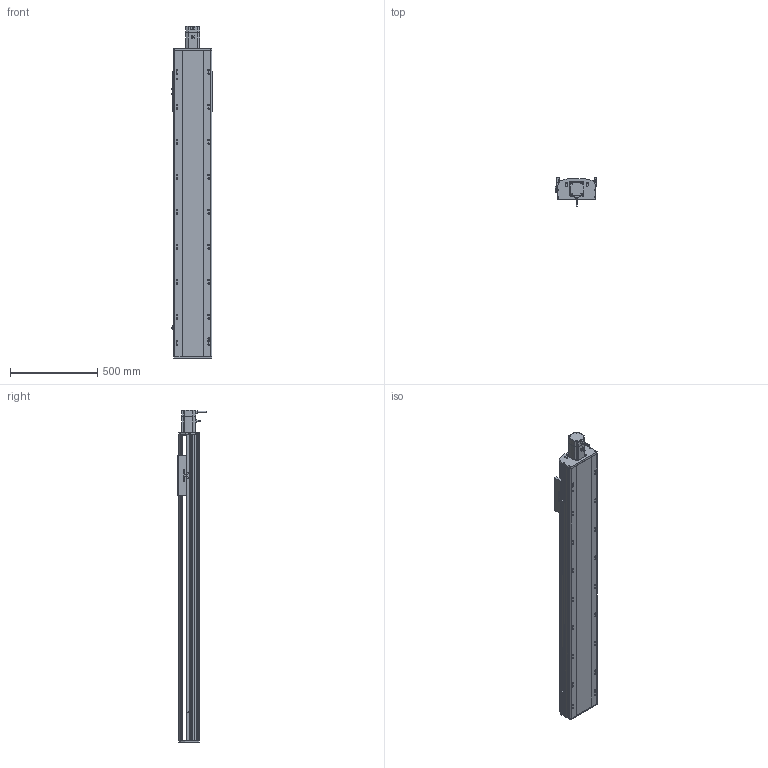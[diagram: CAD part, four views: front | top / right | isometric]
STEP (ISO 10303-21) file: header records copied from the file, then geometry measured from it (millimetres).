
FILE_DESCRIPTION (( 'STEP AP214' ), '1' );
FILE_NAME ('RTH22-XX-1350-E-M75-C4.STEP', '2025-10-24T10:49:23', ( 'Microsoft' ), ( 'Microsoft' ), 'SwSTEP 2.0', 'SolidWorks 2018', '' );
FILE_SCHEMA (( 'AUTOMOTIVE_DESIGN' ));
Length unit declared in the file: millimetre
Products named in the file (9): N_OMRON EE-SX672 传感器^RTH22-XX-XX-E-M75-C4; N_RTH22-GY-001耜裔^RTH22-XX-XX-E-M75-C4; RTH22-XX-1350-E-M75-C4; N_RTH22-E-004-SFS25賑釱^RTH22-XX-XX-E-M75-C4; N_RTH22-E-007奻裔^RTH22-XX-XX-E-M75-C4; N_RTH22-E-008萇儂啣^RTH22-XX-XX-E-M75-C4; N_RTH22-E-011菁釱^RTH22-XX-XX-E-M75-C4; N_750W萇儂^RTH22-XX-XX-E-M75-C4; N_RTH22-GY-013外置感应片^RTH22-XX-XX-E-M75-C4
Assembly tree (10 placements, depth 2):
  RTH22-XX-1350-E-M75-C4
    N_RTH22-E-011菁釱^RTH22-XX-XX-E-M75-C4
    N_RTH22-GY-001耜裔^RTH22-XX-XX-E-M75-C4
    N_RTH22-E-008萇儂啣^RTH22-XX-XX-E-M75-C4
    N_RTH22-E-007奻裔^RTH22-XX-XX-E-M75-C4
    N_RTH22-GY-013外置感应片^RTH22-XX-XX-E-M75-C4
    N_RTH22-E-004-SFS25賑釱^RTH22-XX-XX-E-M75-C4
    N_750W萇儂^RTH22-XX-XX-E-M75-C4
    N_OMRON EE-SX672 传感器^RTH22-XX-XX-E-M75-C4  x3
Bounding box: 238.5 x 160.7 x 1899 mm (x, y, z)
Volume: 23522407.3 mm3; surface area: 2413162.1 mm2
Topology: 10 solids, 10 shells, 1577 faces, 4324 edges, 2789 vertices
Faces by surface type: plane 760, cylinder 472, bspline 279, cone 66
Entity records: 39947 total; most frequent: CARTESIAN_POINT 12441, ORIENTED_EDGE 5608, DIRECTION 5310, EDGE_CURVE 2804, VERTEX_POINT 1825, AXIS2_PLACEMENT_3D 1806, LINE 1698, VECTOR 1698
